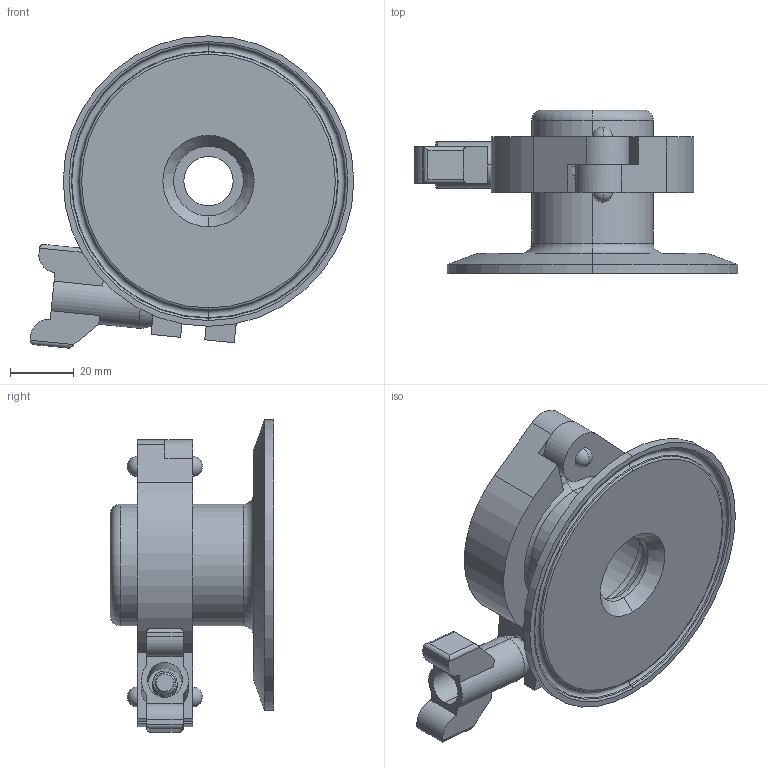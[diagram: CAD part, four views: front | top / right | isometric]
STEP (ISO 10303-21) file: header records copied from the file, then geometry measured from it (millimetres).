
FILE_DESCRIPTION (( 'STEP AP203' ), '1' );
FILE_NAME ('EG62C3.0-.375.STEP', '2019-11-14T20:12:38', ( 'vneprd' ), ( 'Microsoft' ), 'SwSTEP 2.0', 'SolidWorks 2018', '' );
FILE_SCHEMA (( 'CONFIG_CONTROL_DESIGN' ));
Length unit declared in the file: inch
Products named in the file (1): EG62C3.0-.375
Bounding box: 101.23 x 51.13 x 97.75 mm (x, y, z)
Volume: 97520.2 mm3; surface area: 50643.1 mm2
Topology: 9 solids, 9 shells, 269 faces, 651 edges, 411 vertices
Faces by surface type: cylinder 116, plane 61, torus 46, cone 29, sphere 14, bspline 3
Entity records: 12267 total; most frequent: CARTESIAN_POINT 6042, DIRECTION 1329, ORIENTED_EDGE 1294, EDGE_CURVE 647, AXIS2_PLACEMENT_3D 548, VERTEX_POINT 409, EDGE_LOOP 300, CIRCLE 281
